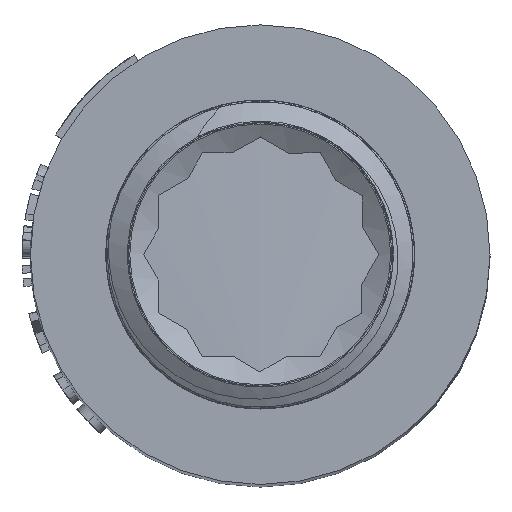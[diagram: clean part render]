
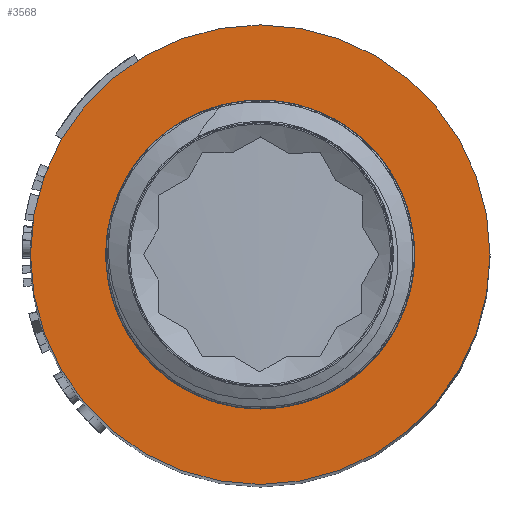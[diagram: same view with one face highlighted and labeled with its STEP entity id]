
A CAD part, top view. The second image highlights one B-rep face of the part: STEP entity #3568.
In plain terms, the highlighted planar face has unit normal (0, 0, 1).
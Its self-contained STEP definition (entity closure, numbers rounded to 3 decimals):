
#82=FACE_BOUND('',#821,.T.);
#450=PLANE('',#3797);
#604=FACE_OUTER_BOUND('',#820,.T.);
#820=EDGE_LOOP('',(#3029,#3030));
#821=EDGE_LOOP('',(#3031,#3032));
#1283=CIRCLE('',#3649,7.825);
#1286=CIRCLE('',#3652,7.825);
#1307=CIRCLE('',#3692,13.65);
#1308=CIRCLE('',#3693,13.65);
#1376=VERTEX_POINT('',#4516);
#1377=VERTEX_POINT('',#4517);
#1424=VERTEX_POINT('',#4764);
#1425=VERTEX_POINT('',#4765);
#1740=EDGE_CURVE('',#1376,#1377,#1283,.T.);
#1744=EDGE_CURVE('',#1377,#1376,#1286,.T.);
#1811=EDGE_CURVE('',#1424,#1425,#1307,.T.);
#1812=EDGE_CURVE('',#1425,#1424,#1308,.T.);
#3029=ORIENTED_EDGE('',*,*,#1811,.T.);
#3030=ORIENTED_EDGE('',*,*,#1812,.T.);
#3031=ORIENTED_EDGE('',*,*,#1740,.F.);
#3032=ORIENTED_EDGE('',*,*,#1744,.F.);
#3568=ADVANCED_FACE('',(#604,#82),#450,.T.);
#3649=AXIS2_PLACEMENT_3D('',#4518,#3874,#3875);
#3652=AXIS2_PLACEMENT_3D('',#4524,#3881,#3882);
#3692=AXIS2_PLACEMENT_3D('',#4766,#3997,#3998);
#3693=AXIS2_PLACEMENT_3D('',#4767,#3999,#4000);
#3797=AXIS2_PLACEMENT_3D('',#7255,#4335,#4336);
#3874=DIRECTION('center_axis',(0.,0.,1.));
#3875=DIRECTION('ref_axis',(1.,0.,0.));
#3881=DIRECTION('center_axis',(0.,0.,1.));
#3882=DIRECTION('ref_axis',(1.,0.,0.));
#3997=DIRECTION('center_axis',(0.,0.,1.));
#3998=DIRECTION('ref_axis',(1.,0.,0.));
#3999=DIRECTION('center_axis',(0.,0.,1.));
#4000=DIRECTION('ref_axis',(1.,0.,0.));
#4335=DIRECTION('center_axis',(0.,0.,1.));
#4336=DIRECTION('ref_axis',(1.,0.,0.));
#4516=CARTESIAN_POINT('',(0.,7.825,-10.));
#4517=CARTESIAN_POINT('',(0.,-7.825,-10.));
#4518=CARTESIAN_POINT('Origin',(0.,0.,-10.));
#4524=CARTESIAN_POINT('Origin',(0.,0.,-10.));
#4764=CARTESIAN_POINT('',(0.,-13.65,-10.));
#4765=CARTESIAN_POINT('',(0.,13.65,-10.));
#4766=CARTESIAN_POINT('Origin',(0.,0.,-10.));
#4767=CARTESIAN_POINT('Origin',(0.,0.,-10.));
#7255=CARTESIAN_POINT('Origin',(0.,-9.17,-10.));
